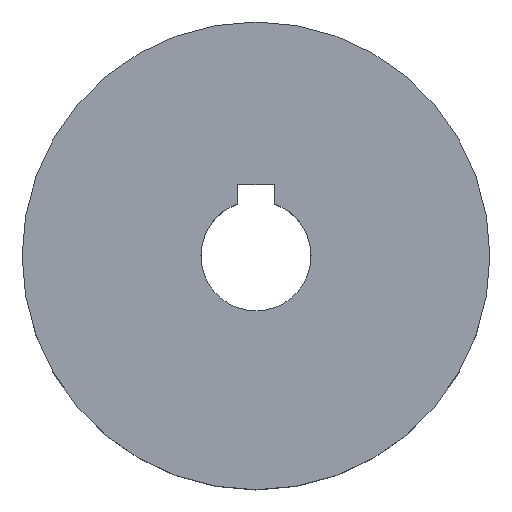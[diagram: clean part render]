
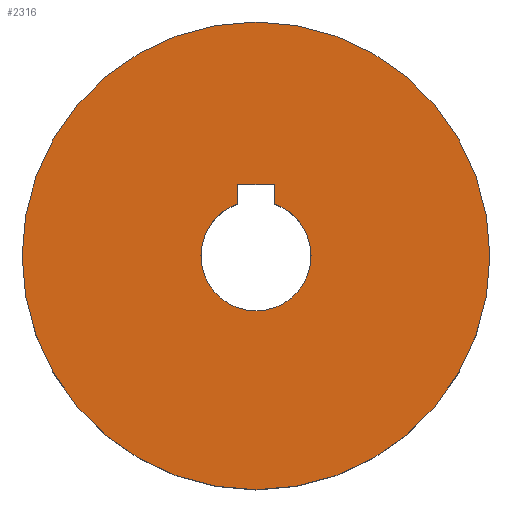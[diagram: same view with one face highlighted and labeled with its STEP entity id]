
A CAD part, top view. The second image highlights one B-rep face of the part: STEP entity #2316.
In plain terms, the highlighted planar face has unit normal (0, 0, 1).
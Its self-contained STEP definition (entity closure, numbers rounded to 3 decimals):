
#628 = VERTEX_POINT ( 'NONE', #4358 ) ;
#632 = EDGE_CURVE ( 'NONE', #628, #634, #4373, .T. ) ;
#634 = VERTEX_POINT ( 'NONE', #4407 ) ;
#674 = EDGE_CURVE ( 'NONE', #634, #684, #4469, .T. ) ;
#684 = VERTEX_POINT ( 'NONE', #4500 ) ;
#715 = VERTEX_POINT ( 'NONE', #4567 ) ;
#718 = VERTEX_POINT ( 'NONE', #4557 ) ;
#725 = EDGE_CURVE ( 'NONE', #718, #715, #4540, .T. ) ;
#2314 = EDGE_CURVE ( 'NONE', #2389, #628, #7492, .T. ) ;
#2315 = EDGE_CURVE ( 'NONE', #715, #718, #7489, .T. ) ;
#2316 = ADVANCED_FACE ( 'NONE', ( #7478, #7487 ), #7491, .T. ) ;
#2317 = VERTEX_POINT ( 'NONE', #7475 ) ;
#2318 = ORIENTED_EDGE ( 'NONE', *, *, #2314, .F. ) ;
#2320 = ORIENTED_EDGE ( 'NONE', *, *, #2388, .F. ) ;
#2321 = EDGE_CURVE ( 'NONE', #2317, #2391, #7468, .T. ) ;
#2375 = ORIENTED_EDGE ( 'NONE', *, *, #2321, .F. ) ;
#2376 = EDGE_CURVE ( 'NONE', #684, #2317, #7512, .T. ) ;
#2377 = ORIENTED_EDGE ( 'NONE', *, *, #2315, .T. ) ;
#2378 = ORIENTED_EDGE ( 'NONE', *, *, #2376, .F. ) ;
#2379 = ORIENTED_EDGE ( 'NONE', *, *, #725, .T. ) ;
#2380 = ORIENTED_EDGE ( 'NONE', *, *, #632, .F. ) ;
#2381 = ORIENTED_EDGE ( 'NONE', *, *, #674, .F. ) ;
#2382 = EDGE_LOOP ( 'NONE', ( #2379, #2377 ) ) ;
#2387 = EDGE_LOOP ( 'NONE', ( #2318, #2320, #2375, #2378, #2381, #2380 ) ) ;
#2388 = EDGE_CURVE ( 'NONE', #2391, #2389, #7499, .T. ) ;
#2389 = VERTEX_POINT ( 'NONE', #7501 ) ;
#2391 = VERTEX_POINT ( 'NONE', #7496 ) ;
#4357 = AXIS2_PLACEMENT_3D ( 'NONE', #4410, #4409, #4408 ) ;
#4358 = CARTESIAN_POINT ( 'NONE',  ( -6., 0., 7.5 ) ) ;
#4373 = CIRCLE ( 'NONE', #4357, 6. ) ;
#4407 = CARTESIAN_POINT ( 'NONE',  ( 6., 0., 7.5 ) ) ;
#4408 = DIRECTION ( 'NONE',  ( 1., 0., 0. ) ) ;
#4409 = DIRECTION ( 'NONE',  ( 0., 0., 1. ) ) ;
#4410 = CARTESIAN_POINT ( 'NONE',  ( 0., 0., 7.5 ) ) ;
#4444 = AXIS2_PLACEMENT_3D ( 'NONE', #4451, #4504, #4503 ) ;
#4451 = CARTESIAN_POINT ( 'NONE',  ( 0., 0., 7.5 ) ) ;
#4469 = CIRCLE ( 'NONE', #4444, 6. ) ;
#4500 = CARTESIAN_POINT ( 'NONE',  ( 2., 5.657, 7.5 ) ) ;
#4503 = DIRECTION ( 'NONE',  ( 1., 0., 0. ) ) ;
#4504 = DIRECTION ( 'NONE',  ( 0., 0., 1. ) ) ;
#4540 = CIRCLE ( 'NONE', #4543, 25.5 ) ;
#4543 = AXIS2_PLACEMENT_3D ( 'NONE', #4594, #4588, #4587 ) ;
#4557 = CARTESIAN_POINT ( 'NONE',  ( 25.5, 0., 7.5 ) ) ;
#4567 = CARTESIAN_POINT ( 'NONE',  ( -25.5, 0., 7.5 ) ) ;
#4587 = DIRECTION ( 'NONE',  ( 1., 0., 0. ) ) ;
#4588 = DIRECTION ( 'NONE',  ( 0., 0., 1. ) ) ;
#4594 = CARTESIAN_POINT ( 'NONE',  ( 0., 0., 7.5 ) ) ;
#7464 = DIRECTION ( 'NONE',  ( -1., 0., 0. ) ) ;
#7465 = VECTOR ( 'NONE', #7464, 1000. ) ;
#7466 = CARTESIAN_POINT ( 'NONE',  ( -2., 7.8, 7.5 ) ) ;
#7468 = LINE ( 'NONE', #7466, #7465 ) ;
#7472 = DIRECTION ( 'NONE',  ( 1., 0., 0. ) ) ;
#7473 = DIRECTION ( 'NONE',  ( 0., 0., 1. ) ) ;
#7474 = CARTESIAN_POINT ( 'NONE',  ( 0., 0., 7.5 ) ) ;
#7475 = CARTESIAN_POINT ( 'NONE',  ( 2., 7.8, 7.5 ) ) ;
#7478 = FACE_BOUND ( 'NONE', #2387, .T. ) ;
#7479 = DIRECTION ( 'NONE',  ( 1., 0., 0. ) ) ;
#7480 = DIRECTION ( 'NONE',  ( 0., 0., 1. ) ) ;
#7481 = AXIS2_PLACEMENT_3D ( 'NONE', #7474, #7473, #7472 ) ;
#7482 = AXIS2_PLACEMENT_3D ( 'NONE', #7493, #7480, #7479 ) ;
#7483 = DIRECTION ( 'NONE',  ( 1., 0., 0. ) ) ;
#7484 = DIRECTION ( 'NONE',  ( 0., 0., 1. ) ) ;
#7485 = CARTESIAN_POINT ( 'NONE',  ( 0., 0., 7.5 ) ) ;
#7486 = AXIS2_PLACEMENT_3D ( 'NONE', #7485, #7484, #7483 ) ;
#7487 = FACE_OUTER_BOUND ( 'NONE', #2382, .T. ) ;
#7489 = CIRCLE ( 'NONE', #7482, 25.5 ) ;
#7491 = PLANE ( 'NONE',  #7481 ) ;
#7492 = CIRCLE ( 'NONE', #7486, 6. ) ;
#7493 = CARTESIAN_POINT ( 'NONE',  ( 0., 0., 7.5 ) ) ;
#7496 = CARTESIAN_POINT ( 'NONE',  ( -2., 7.8, 7.5 ) ) ;
#7498 = VECTOR ( 'NONE', #7507, 1000. ) ;
#7499 = LINE ( 'NONE', #7513, #7498 ) ;
#7501 = CARTESIAN_POINT ( 'NONE',  ( -2., 5.657, 7.5 ) ) ;
#7507 = DIRECTION ( 'NONE',  ( 0., -1., 0. ) ) ;
#7509 = DIRECTION ( 'NONE',  ( 0., 1., 0. ) ) ;
#7510 = VECTOR ( 'NONE', #7509, 1000. ) ;
#7511 = CARTESIAN_POINT ( 'NONE',  ( 2., 7.8, 7.5 ) ) ;
#7512 = LINE ( 'NONE', #7511, #7510 ) ;
#7513 = CARTESIAN_POINT ( 'NONE',  ( -2., 5.657, 7.5 ) ) ;
